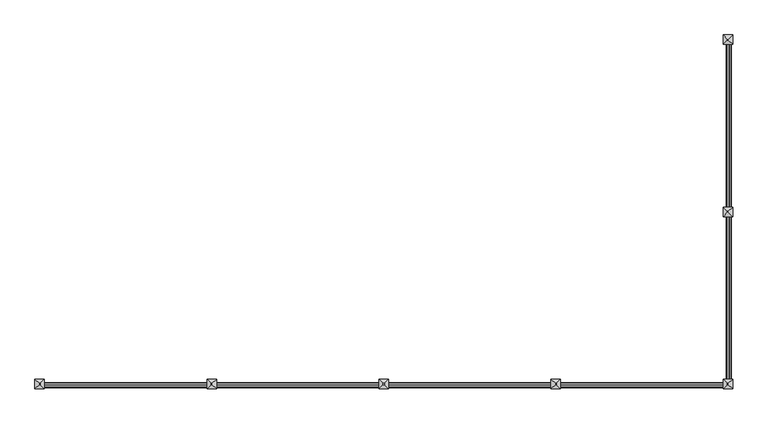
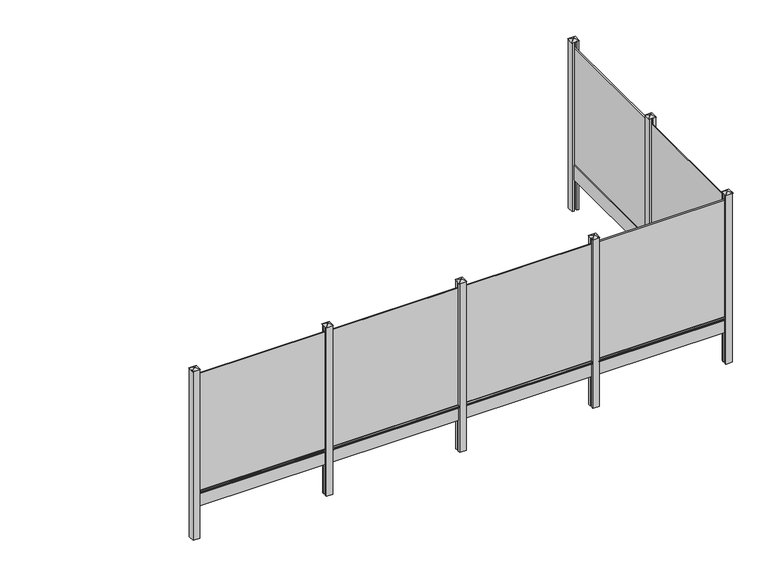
"""IFC4 building model written with IfcOpenShell, lengths in millimetres: railing geometry, Mehat - Railing - Plaque de Soubassement - Pour clôture bois - 200x25x3.5 cm."""

import ifcopenshell
import ifcopenshell.guid

model = None  # the IFC model being written
_history = None  # IfcOwnerHistory: only IFC2X3 demands one
_inside = {}  # id of a spatial element -> (the spatial element, [elements in it])
_under = {}  # id of a project, library or spatial element -> (it, [spatial elements below it])
_declared = {}  # id of a project -> (the project, [libraries it declares])
_typed = {}  # id of a type object -> (the type object, [elements of that type])
_made_of = {}  # id of a material, layer set ... -> (it, [elements and type objects made of it])


def new_model(schema):
    """Start an empty IFC model of exactly this schema.

    Asked for "IFC4X3", IfcOpenShell would pick the latest addendum, in which some entities
    have other attributes; the version numbers below select the first issue.
    IFC2X3 requires an IfcOwnerHistory on every rooted entity: one is made here for all.
    """
    global model, _history
    if schema == "IFC4X3":
        model = ifcopenshell.file(schema_version=(4, 3, 0, 0))
    else:
        model = ifcopenshell.file(schema=schema)
    _inside.clear()
    _under.clear()
    _declared.clear()
    _typed.clear()
    _made_of.clear()
    _history = None
    if model.schema == "IFC2X3":
        org = make("IfcOrganization", Name="unknown")
        user = make(
            "IfcPersonAndOrganization",
            ThePerson=make("IfcPerson", FamilyName="unknown"),
            TheOrganization=org,
        )
        app = make(
            "IfcApplication",
            ApplicationDeveloper=org,
            Version="unknown",
            ApplicationFullName="unknown",
            ApplicationIdentifier="unknown",
        )
        _history = make(
            "IfcOwnerHistory",
            OwningUser=user,
            OwningApplication=app,
            ChangeAction="ADDED",
            CreationDate=0,
        )
    return model


def make(cls, **values):
    """One entity of the class cls with the attributes given. An attribute that is None is left unset."""
    return model.create_entity(
        cls, **{name: value for name, value in values.items() if value is not None}
    )


def rooted(cls, **values):
    """An entity with a GlobalId (a new one), such as an element, a storey or a relation."""
    return make(cls, GlobalId=ifcopenshell.guid.new(), OwnerHistory=_history, **values)


def si_unit(unit_type, name, prefix=None):
    """IfcSIUnit, for example si_unit("LENGTHUNIT", "METRE", prefix="MILLI")."""
    return make("IfcSIUnit", UnitType=unit_type, Prefix=prefix, Name=name)


def assignment(units):
    """IfcUnitAssignment: the units of a project."""
    return None if units is None else make("IfcUnitAssignment", Units=units)


def point(xyz):
    """IfcCartesianPoint."""
    return None if xyz is None else make("IfcCartesianPoint", Coordinates=xyz)


def direction(xyz):
    """IfcDirection."""
    return None if xyz is None else make("IfcDirection", DirectionRatios=xyz)


def frame(location, z_axis=None, x_axis=None):
    """IfcAxis2Placement3D, a coordinate frame: its origin and axes. An axis left out is left unset."""
    return make(
        "IfcAxis2Placement3D",
        Location=point(location),
        Axis=direction(z_axis),
        RefDirection=direction(x_axis),
    )


def frame_2d(location, x_axis=None):
    """IfcAxis2Placement2D, a coordinate frame in the plane: its origin and x axis."""
    return make(
        "IfcAxis2Placement2D", Location=point(location), RefDirection=direction(x_axis)
    )


def origin():
    """The frame at (0, 0, 0) with its axes left unset."""
    return frame((0.0, 0.0, 0.0))


def origin_with_axes():
    """The frame at (0, 0, 0) with the z axis (0, 0, 1) and the x axis (1, 0, 0) written out."""
    return frame((0.0, 0.0, 0.0), z_axis=(0.0, 0.0, 1.0), x_axis=(1.0, 0.0, 0.0))


def place(relative_to, where):
    """IfcLocalPlacement: puts the frame where relative to a parent placement (None: the world)."""
    return make(
        "IfcLocalPlacement", PlacementRelTo=relative_to, RelativePlacement=where
    )


def context(
    kind, dimensions, precision=None, world=None, true_north=None, identifier=None
):
    """IfcGeometricRepresentationContext, for example the 3D "Model" context."""
    return make(
        "IfcGeometricRepresentationContext",
        ContextIdentifier=identifier,
        ContextType=kind,
        CoordinateSpaceDimension=dimensions,
        Precision=precision,
        WorldCoordinateSystem=world,
        TrueNorth=true_north,
    )


def project(units=None, contexts=None):
    """IfcProject with its units and contexts."""
    return rooted(
        "IfcProject",
        Name="project",
        RepresentationContexts=contexts,
        UnitsInContext=assignment(units),
    )


def spatial(cls, under=None, at=None, **own):
    """A site, building, storey or space (cls), placed at a placement, below another one or the project."""
    s = rooted(cls, ObjectPlacement=at, **own)
    if under is not None:
        _under.setdefault(under.id(), (under, []))[1].append(s)
    return s


def polyline(points):
    """IfcPolyline through the points."""
    return make("IfcPolyline", Points=[point(p) for p in points])


def circle_curve(where, radius):
    """IfcCircle in the frame where."""
    return make("IfcCircle", Position=where, Radius=radius)


def trimmed(basis, trim1, trim2, sense, master):
    """IfcTrimmedCurve: the piece of a basis curve between two trims."""
    return make(
        "IfcTrimmedCurve",
        BasisCurve=basis,
        Trim1=trim1,
        Trim2=trim2,
        SenseAgreement=sense,
        MasterRepresentation=master,
    )


def segment(curve, same_sense, transition):
    """IfcCompositeCurveSegment."""
    return make(
        "IfcCompositeCurveSegment",
        Transition=transition,
        SameSense=same_sense,
        ParentCurve=curve,
    )


def composite_curve(segments, self_intersect=None):
    """IfcCompositeCurve: segments joined end to end."""
    return make("IfcCompositeCurve", Segments=segments, SelfIntersect=self_intersect)


def outline(outer, holes=None, kind="AREA"):
    """IfcArbitraryClosedProfileDef: a profile drawn as a closed curve; with holes, ...WithVoids."""
    if holes is None:
        return make("IfcArbitraryClosedProfileDef", ProfileType=kind, OuterCurve=outer)
    return make(
        "IfcArbitraryProfileDefWithVoids",
        ProfileType=kind,
        OuterCurve=outer,
        InnerCurves=holes,
    )


def extrude(swept, where, along, depth):
    """IfcExtrudedAreaSolid: the profile swept, set in the frame where, extruded along a direction by depth."""
    return make(
        "IfcExtrudedAreaSolid",
        SweptArea=swept,
        Position=where,
        ExtrudedDirection=direction(along),
        Depth=depth,
    )


def faces_of(points, faces, orient=None, outer=None):
    """IfcFace entities. A face is a list of loops; a loop is a list of indices into points, from 0.

    orient and outer hold one flag for each loop. By default every Orientation is true, the
    first loop of a face is its IfcFaceOuterBound and the others are IfcFaceBound.
    """
    made = []
    for i, loops in enumerate(faces):
        bounds = []
        for j, loop in enumerate(loops):
            is_outer = j == 0 if outer is None else outer[i][j]
            bounds.append(
                make(
                    "IfcFaceOuterBound" if is_outer else "IfcFaceBound",
                    Bound=make("IfcPolyLoop", Polygon=[points[k] for k in loop]),
                    Orientation=True if orient is None else orient[i][j],
                )
            )
        made.append(make("IfcFace", Bounds=bounds))
    return made


def faceted_brep(points, faces, orient=None, outer=None, voids=None):
    """IfcFacetedBrep: a solid bounded by flat faces; with voids (closed shells), ...WithVoids."""
    shared = [point(p) for p in points]
    hull = make("IfcClosedShell", CfsFaces=faces_of(shared, faces, orient, outer))
    if voids is None:
        return make("IfcFacetedBrep", Outer=hull)
    return make(
        "IfcFacetedBrepWithVoids",
        Outer=hull,
        Voids=[
            make(cls, CfsFaces=faces_of(shared, fs, o, b)) for cls, fs, o, b in voids
        ],
    )


def shape(context_of_items, identifier, shape_type, items):
    """IfcShapeRepresentation: the items that make up one representation, for example the "Body"."""
    return make(
        "IfcShapeRepresentation",
        ContextOfItems=context_of_items,
        RepresentationIdentifier=identifier,
        RepresentationType=shape_type,
        Items=items,
    )


def source(mapping_origin, context_of_items, identifier, shape_type, items):
    """IfcRepresentationMap: a shape defined once, which mapped items show again and again."""
    return make(
        "IfcRepresentationMap",
        MappingOrigin=mapping_origin,
        MappedRepresentation=shape(context_of_items, identifier, shape_type, items),
    )


def transform(
    local_origin,
    x_axis=None,
    y_axis=None,
    z_axis=None,
    scale=None,
    scale2=None,
    scale3=None,
    uniform=True,
):
    """IfcCartesianTransformationOperator3D, or its non-uniform kind. x_axis, y_axis, z_axis: its Axis1, 2, 3."""
    if uniform:
        return make(
            "IfcCartesianTransformationOperator3D",
            Axis1=direction(x_axis),
            Axis2=direction(y_axis),
            LocalOrigin=point(local_origin),
            Scale=scale,
            Axis3=direction(z_axis),
        )
    return make(
        "IfcCartesianTransformationOperator3DnonUniform",
        Axis1=direction(x_axis),
        Axis2=direction(y_axis),
        LocalOrigin=point(local_origin),
        Scale=scale,
        Axis3=direction(z_axis),
        Scale2=scale2,
        Scale3=scale3,
    )


def mapped(mapping_source, mapping_target):
    """IfcMappedItem: shows the shape of a source again, moved by a transform."""
    return make(
        "IfcMappedItem", MappingSource=mapping_source, MappingTarget=mapping_target
    )


def made_of(thing, what):
    """Note that an element or type object is made of a material, layer set ...; save() writes the relation."""
    if what is not None:
        _made_of.setdefault(what.id(), (what, []))[1].append(thing)
    return thing


def element(
    cls,
    number,
    at=None,
    inside=None,
    cuts=None,
    type_object=None,
    material=None,
    context=None,
    identifier="Body",
    shape_type=None,
    held_by="IfcProductDefinitionShape",
    body=None,
    shapes=None,
    **own,
):
    """One element of the class cls, such as IfcWall. Its Tag is "e" and its number.

    at: its placement. inside: the storey or other place that contains it. cuts: it is an
    opening in that element (IfcRelVoidsElement). A single representation is given by context,
    identifier, shape_type and body (its items); several are given by shapes. held_by: the class
    of the entity that holds the representations. save() writes the other relations.
    """
    e = rooted(cls, Tag="e%d" % number, ObjectPlacement=at, **own)
    if body is not None:
        shapes = [shape(context, identifier, shape_type, body)]
    if shapes is not None:
        e.Representation = make(held_by, Representations=shapes)
    if inside is not None:
        _inside.setdefault(inside.id(), (inside, []))[1].append(e)
    if cuts is not None:
        rooted(
            "IfcRelVoidsElement", RelatingBuildingElement=cuts, RelatedOpeningElement=e
        )
    if type_object is not None:
        _typed.setdefault(type_object.id(), (type_object, []))[1].append(e)
    return made_of(e, material)


def aggregate(whole, parts):
    """IfcRelAggregates: a whole, such as a stair, and the parts it consists of."""
    return rooted("IfcRelAggregates", RelatingObject=whole, RelatedObjects=parts)


def save(model, path):
    """Write the relations noted so far, then the file.

    IfcRelAggregates (storeys below a building ...), IfcRelContainedInSpatialStructure (elements
    in a storey), IfcRelDefinesByType, IfcRelAssociatesMaterial and IfcRelDeclares: one each for
    every whole, place, type object, material and project.
    """
    for whole, parts in _under.values():
        aggregate(whole, parts)
    for where, things in _inside.values():
        rooted(
            "IfcRelContainedInSpatialStructure",
            RelatedElements=things,
            RelatingStructure=where,
        )
    for kind, things in _typed.values():
        rooted("IfcRelDefinesByType", RelatedObjects=things, RelatingType=kind)
    for what, things in _made_of.values():
        rooted("IfcRelAssociatesMaterial", RelatedObjects=things, RelatingMaterial=what)
    for by, libraries in _declared.values():
        rooted("IfcRelDeclares", RelatingContext=by, RelatedDefinitions=libraries)
    model.write(path)


def railing_6d3b28d1(model_context):
    return source(origin(), model_context, "Body", "SolidModel", [
        extrude(outline(polyline([(-1103.7483484, -1327.4943936), (-1120.7483484, -1327.4943936), (-1120.7483484, 672.5056064), (-1103.7483484, 672.5056064), (-1103.7483484, -1327.4943936)])), frame((0.0, 0.0, 200.0), z_axis=(0.0, 0.0, 1.0), x_axis=(1.0, 0.0, 0.0)), (0.0, 0.0, 1.0), 1950.0),
        extrude(outline(polyline([(-1094.7483484, -1327.4943936), (-1129.7483484, -1327.4943936), (-1129.7483484, 672.5056064), (-1094.7483484, 672.5056064), (-1094.7483484, -1327.4943936)])), origin_with_axes(), (0.0, 0.0, 1.0), 250.0),
        extrude(outline(composite_curve([segment(polyline([(210.0, -1094.7483484), (217.1937129, -1073.1672095)]), True, "CONTINUOUS"), segment(trimmed(circle_curve(frame_2d((221.9371294, -1074.7483484)), 5.0), [point((217.1937129, -1073.1672095))], [point((221.9371294, -1069.7483484))], False, "CARTESIAN"), True, "CONTINUOUS"), segment(polyline([(221.9371294, -1069.7483484), (238.0628706, -1069.7483484)]), True, "CONTINUOUS"), segment(trimmed(circle_curve(frame_2d((238.0628706, -1074.7483484)), 5.0), [point((238.0628706, -1069.7483484))], [point((242.8062871, -1073.1672095))], False, "CARTESIAN"), True, "CONTINUOUS"), segment(polyline([(242.8062871, -1073.1672095), (250.0, -1094.7483484), (210.0, -1094.7483484)]), True, "CONTINUOUS")], self_intersect=False)), frame((0.0, -1302.4943936, 0.0), z_axis=(0.0, 1.0, 0.0), x_axis=(0.0, 0.0, 1.0)), (0.0, 0.0, 1.0), 1950.0),
        extrude(outline(polyline([(-1062.2483484, -1402.4943936), (-1094.7483484, -1402.4943936), (-1094.7483484, -1377.4943936), (-1129.7483484, -1377.4943936), (-1129.7483484, -1402.4943936), (-1162.2483484, -1402.4943936), (-1162.2483484, -1302.4943936), (-1129.7483484, -1302.4943936), (-1129.7483484, -1327.4943936), (-1094.7483484, -1327.4943936), (-1094.7483484, -1302.4943936), (-1062.2483484, -1302.4943936), (-1062.2483484, -1402.4943936)])), frame((0.0, 0.0, -500.0), z_axis=(0.0, 0.0, 1.0), x_axis=(1.0, 0.0, 0.0)), (0.0, 0.0, 1.0), 2750.0),
        faceted_brep([(-1118.6528945, -1346.1443936, 2275.4), (-1118.6528945, -1358.8443936, 2275.4), (-1105.9528945, -1358.8443936, 2275.4), (-1105.9528945, -1346.1443936, 2275.4), (-1168.5983484, -1296.1443936, 2250.0), (-1055.8983484, -1296.1443936, 2250.0), (-1055.8983484, -1408.8443936, 2250.0), (-1168.5983484, -1408.8443936, 2250.0)], [[[0, 1, 2, 3]], [[4, 5, 6, 7]], [[4, 0, 3, 5]], [[5, 3, 2, 6]], [[6, 2, 1, 7]], [[7, 1, 0, 4]]]),
        extrude(outline(polyline([(-1103.7483484, -3377.4943936), (-1120.7483484, -3377.4943936), (-1120.7483484, -1377.4943936), (-1103.7483484, -1377.4943936), (-1103.7483484, -3377.4943936)])), frame((0.0, 0.0, 200.0), z_axis=(0.0, 0.0, 1.0), x_axis=(1.0, 0.0, 0.0)), (0.0, 0.0, 1.0), 1950.0),
        extrude(outline(polyline([(-1094.7483484, -3377.4943936), (-1129.7483484, -3377.4943936), (-1129.7483484, -1377.4943936), (-1094.7483484, -1377.4943936), (-1094.7483484, -3377.4943936)])), origin_with_axes(), (0.0, 0.0, 1.0), 250.0),
        extrude(outline(composite_curve([segment(polyline([(210.0, -1094.7483484), (217.1937129, -1073.1672095)]), True, "CONTINUOUS"), segment(trimmed(circle_curve(frame_2d((221.9371294, -1074.7483484)), 5.0), [point((217.1937129, -1073.1672095))], [point((221.9371294, -1069.7483484))], False, "CARTESIAN"), True, "CONTINUOUS"), segment(polyline([(221.9371294, -1069.7483484), (238.0628706, -1069.7483484)]), True, "CONTINUOUS"), segment(trimmed(circle_curve(frame_2d((238.0628706, -1074.7483484)), 5.0), [point((238.0628706, -1069.7483484))], [point((242.8062871, -1073.1672095))], False, "CARTESIAN"), True, "CONTINUOUS"), segment(polyline([(242.8062871, -1073.1672095), (250.0, -1094.7483484), (210.0, -1094.7483484)]), True, "CONTINUOUS")], self_intersect=False)), frame((0.0, -3352.4943936, 0.0), z_axis=(0.0, 1.0, 0.0), x_axis=(0.0, 0.0, 1.0)), (0.0, 0.0, 1.0), 1950.0),
        extrude(outline(polyline([(-3137.2483484, -3410.9943936), (-3137.2483484, -3393.9943936), (-1137.2483484, -3393.9943936), (-1137.2483484, -3410.9943936), (-3137.2483484, -3410.9943936)])), frame((0.0, 0.0, 200.0), z_axis=(0.0, 0.0, 1.0), x_axis=(1.0, 0.0, 0.0)), (0.0, 0.0, 1.0), 1950.0),
        extrude(outline(polyline([(-3137.2483484, -3419.9943936), (-3137.2483484, -3384.9943936), (-1137.2483484, -3384.9943936), (-1137.2483484, -3419.9943936), (-3137.2483484, -3419.9943936)])), origin_with_axes(), (0.0, 0.0, 1.0), 250.0),
        extrude(outline(composite_curve([segment(polyline([(-3419.9943936, 210.0), (-3441.5755325, 217.1937129)]), True, "CONTINUOUS"), segment(trimmed(circle_curve(frame_2d((-3439.9943936, 221.9371294)), 5.0), [point((-3441.5755325, 217.1937129))], [point((-3444.9943936, 221.9371294))], False, "CARTESIAN"), True, "CONTINUOUS"), segment(polyline([(-3444.9943936, 221.9371294), (-3444.9943936, 238.0628706)]), True, "CONTINUOUS"), segment(trimmed(circle_curve(frame_2d((-3439.9943936, 238.0628706)), 5.0), [point((-3444.9943936, 238.0628706))], [point((-3441.5755325, 242.8062871))], False, "CARTESIAN"), True, "CONTINUOUS"), segment(polyline([(-3441.5755325, 242.8062871), (-3419.9943936, 250.0), (-3419.9943936, 210.0)]), True, "CONTINUOUS")], self_intersect=False)), frame((-3112.2483484, 0.0, 0.0), z_axis=(1.0, 0.0, 0.0), x_axis=(0.0, 1.0, 0.0)), (0.0, 0.0, 1.0), 1950.0),
        extrude(outline(polyline([(-3212.2483484, -3452.4943936), (-3212.2483484, -3419.9943936), (-3187.2483484, -3419.9943936), (-3187.2483484, -3384.9943936), (-3212.2483484, -3384.9943936), (-3212.2483484, -3352.4943936), (-3112.2483484, -3352.4943936), (-3112.2483484, -3384.9943936), (-3137.2483484, -3384.9943936), (-3137.2483484, -3419.9943936), (-3112.2483484, -3419.9943936), (-3112.2483484, -3452.4943936), (-3212.2483484, -3452.4943936)])), frame((0.0, 0.0, -500.0), z_axis=(0.0, 0.0, 1.0), x_axis=(1.0, 0.0, 0.0)), (0.0, 0.0, 1.0), 2750.0),
        faceted_brep([(-3155.8983484, -3396.0898475, 2275.4), (-3168.5983484, -3396.0898475, 2275.4), (-3168.5983484, -3408.7898475, 2275.4), (-3155.8983484, -3408.7898475, 2275.4), (-3105.8983484, -3346.1443936, 2250.0), (-3105.8983484, -3458.8443936, 2250.0), (-3218.5983484, -3458.8443936, 2250.0), (-3218.5983484, -3346.1443936, 2250.0)], [[[0, 1, 2, 3]], [[4, 5, 6, 7]], [[4, 0, 3, 5]], [[5, 3, 2, 6]], [[6, 2, 1, 7]], [[7, 1, 0, 4]]]),
        extrude(outline(polyline([(-5187.2483484, -3410.9943936), (-5187.2483484, -3393.9943936), (-3187.2483484, -3393.9943936), (-3187.2483484, -3410.9943936), (-5187.2483484, -3410.9943936)])), frame((0.0, 0.0, 200.0), z_axis=(0.0, 0.0, 1.0), x_axis=(1.0, 0.0, 0.0)), (0.0, 0.0, 1.0), 1950.0),
        extrude(outline(polyline([(-5187.2483484, -3419.9943936), (-5187.2483484, -3384.9943936), (-3187.2483484, -3384.9943936), (-3187.2483484, -3419.9943936), (-5187.2483484, -3419.9943936)])), origin_with_axes(), (0.0, 0.0, 1.0), 250.0),
        extrude(outline(composite_curve([segment(polyline([(-3419.9943936, 210.0), (-3441.5755325, 217.1937129)]), True, "CONTINUOUS"), segment(trimmed(circle_curve(frame_2d((-3439.9943936, 221.9371294)), 5.0), [point((-3441.5755325, 217.1937129))], [point((-3444.9943936, 221.9371294))], False, "CARTESIAN"), True, "CONTINUOUS"), segment(polyline([(-3444.9943936, 221.9371294), (-3444.9943936, 238.0628706)]), True, "CONTINUOUS"), segment(trimmed(circle_curve(frame_2d((-3439.9943936, 238.0628706)), 5.0), [point((-3444.9943936, 238.0628706))], [point((-3441.5755325, 242.8062871))], False, "CARTESIAN"), True, "CONTINUOUS"), segment(polyline([(-3441.5755325, 242.8062871), (-3419.9943936, 250.0), (-3419.9943936, 210.0)]), True, "CONTINUOUS")], self_intersect=False)), frame((-5162.2483484, 0.0, 0.0), z_axis=(1.0, 0.0, 0.0), x_axis=(0.0, 1.0, 0.0)), (0.0, 0.0, 1.0), 1950.0),
        extrude(outline(polyline([(-5262.2483484, -3452.4943936), (-5262.2483484, -3419.9943936), (-5237.2483484, -3419.9943936), (-5237.2483484, -3384.9943936), (-5262.2483484, -3384.9943936), (-5262.2483484, -3352.4943936), (-5162.2483484, -3352.4943936), (-5162.2483484, -3384.9943936), (-5187.2483484, -3384.9943936), (-5187.2483484, -3419.9943936), (-5162.2483484, -3419.9943936), (-5162.2483484, -3452.4943936), (-5262.2483484, -3452.4943936)])), frame((0.0, 0.0, -500.0), z_axis=(0.0, 0.0, 1.0), x_axis=(1.0, 0.0, 0.0)), (0.0, 0.0, 1.0), 2750.0),
        faceted_brep([(-5205.8983484, -3396.0898475, 2275.4), (-5218.5983484, -3396.0898475, 2275.4), (-5218.5983484, -3408.7898475, 2275.4), (-5205.8983484, -3408.7898475, 2275.4), (-5155.8983484, -3346.1443936, 2250.0), (-5155.8983484, -3458.8443936, 2250.0), (-5268.5983484, -3458.8443936, 2250.0), (-5268.5983484, -3346.1443936, 2250.0)], [[[0, 1, 2, 3]], [[4, 5, 6, 7]], [[4, 0, 3, 5]], [[5, 3, 2, 6]], [[6, 2, 1, 7]], [[7, 1, 0, 4]]]),
        extrude(outline(polyline([(-7237.2483484, -3410.9943936), (-7237.2483484, -3393.9943936), (-5237.2483484, -3393.9943936), (-5237.2483484, -3410.9943936), (-7237.2483484, -3410.9943936)])), frame((0.0, 0.0, 200.0), z_axis=(0.0, 0.0, 1.0), x_axis=(1.0, 0.0, 0.0)), (0.0, 0.0, 1.0), 1950.0),
        extrude(outline(polyline([(-7237.2483484, -3419.9943936), (-7237.2483484, -3384.9943936), (-5237.2483484, -3384.9943936), (-5237.2483484, -3419.9943936), (-7237.2483484, -3419.9943936)])), origin_with_axes(), (0.0, 0.0, 1.0), 250.0),
        extrude(outline(composite_curve([segment(polyline([(-3419.9943936, 210.0), (-3441.5755325, 217.1937129)]), True, "CONTINUOUS"), segment(trimmed(circle_curve(frame_2d((-3439.9943936, 221.9371294)), 5.0), [point((-3441.5755325, 217.1937129))], [point((-3444.9943936, 221.9371294))], False, "CARTESIAN"), True, "CONTINUOUS"), segment(polyline([(-3444.9943936, 221.9371294), (-3444.9943936, 238.0628706)]), True, "CONTINUOUS"), segment(trimmed(circle_curve(frame_2d((-3439.9943936, 238.0628706)), 5.0), [point((-3444.9943936, 238.0628706))], [point((-3441.5755325, 242.8062871))], False, "CARTESIAN"), True, "CONTINUOUS"), segment(polyline([(-3441.5755325, 242.8062871), (-3419.9943936, 250.0), (-3419.9943936, 210.0)]), True, "CONTINUOUS")], self_intersect=False)), frame((-7212.2483484, 0.0, 0.0), z_axis=(1.0, 0.0, 0.0), x_axis=(0.0, 1.0, 0.0)), (0.0, 0.0, 1.0), 1950.0),
        extrude(outline(polyline([(-7312.2483484, -3452.4943936), (-7312.2483484, -3419.9943936), (-7287.2483484, -3419.9943936), (-7287.2483484, -3384.9943936), (-7312.2483484, -3384.9943936), (-7312.2483484, -3352.4943936), (-7212.2483484, -3352.4943936), (-7212.2483484, -3384.9943936), (-7237.2483484, -3384.9943936), (-7237.2483484, -3419.9943936), (-7212.2483484, -3419.9943936), (-7212.2483484, -3452.4943936), (-7312.2483484, -3452.4943936)])), frame((0.0, 0.0, -500.0), z_axis=(0.0, 0.0, 1.0), x_axis=(1.0, 0.0, 0.0)), (0.0, 0.0, 1.0), 2750.0),
        faceted_brep([(-7255.8983484, -3396.0898475, 2275.4), (-7268.5983484, -3396.0898475, 2275.4), (-7268.5983484, -3408.7898475, 2275.4), (-7255.8983484, -3408.7898475, 2275.4), (-7205.8983484, -3346.1443936, 2250.0), (-7205.8983484, -3458.8443936, 2250.0), (-7318.5983484, -3458.8443936, 2250.0), (-7318.5983484, -3346.1443936, 2250.0)], [[[0, 1, 2, 3]], [[4, 5, 6, 7]], [[4, 0, 3, 5]], [[5, 3, 2, 6]], [[6, 2, 1, 7]], [[7, 1, 0, 4]]]),
        extrude(outline(polyline([(-9287.2483484, -3410.9943936), (-9287.2483484, -3393.9943936), (-7287.2483484, -3393.9943936), (-7287.2483484, -3410.9943936), (-9287.2483484, -3410.9943936)])), frame((0.0, 0.0, 200.0), z_axis=(0.0, 0.0, 1.0), x_axis=(1.0, 0.0, 0.0)), (0.0, 0.0, 1.0), 1950.0),
        extrude(outline(polyline([(-9287.2483484, -3419.9943936), (-9287.2483484, -3384.9943936), (-7287.2483484, -3384.9943936), (-7287.2483484, -3419.9943936), (-9287.2483484, -3419.9943936)])), origin_with_axes(), (0.0, 0.0, 1.0), 250.0),
        extrude(outline(composite_curve([segment(polyline([(-3419.9943936, 210.0), (-3441.5755325, 217.1937129)]), True, "CONTINUOUS"), segment(trimmed(circle_curve(frame_2d((-3439.9943936, 221.9371294)), 5.0), [point((-3441.5755325, 217.1937129))], [point((-3444.9943936, 221.9371294))], False, "CARTESIAN"), True, "CONTINUOUS"), segment(polyline([(-3444.9943936, 221.9371294), (-3444.9943936, 238.0628706)]), True, "CONTINUOUS"), segment(trimmed(circle_curve(frame_2d((-3439.9943936, 238.0628706)), 5.0), [point((-3444.9943936, 238.0628706))], [point((-3441.5755325, 242.8062871))], False, "CARTESIAN"), True, "CONTINUOUS"), segment(polyline([(-3441.5755325, 242.8062871), (-3419.9943936, 250.0), (-3419.9943936, 210.0)]), True, "CONTINUOUS")], self_intersect=False)), frame((-9262.2483484, 0.0, 0.0), z_axis=(1.0, 0.0, 0.0), x_axis=(0.0, 1.0, 0.0)), (0.0, 0.0, 1.0), 1950.0),
        extrude(outline(polyline([(-1162.2483484, -3452.4943936), (-1162.2483484, -3419.9943936), (-1137.2483484, -3419.9943936), (-1137.2483484, -3384.9943936), (-1162.2483484, -3384.9943936), (-1162.2483484, -3352.4943936), (-1129.7483484, -3352.4943936), (-1129.7483484, -3377.4943936), (-1094.7483484, -3377.4943936), (-1094.7483484, -3352.4943936), (-1062.2483484, -3352.4943936), (-1062.2483484, -3452.4943936), (-1162.2483484, -3452.4943936)])), frame((0.0, 0.0, -500.0), z_axis=(0.0, 0.0, 1.0), x_axis=(1.0, 0.0, 0.0)), (0.0, 0.0, 1.0), 2750.0),
        faceted_brep([(-1105.8983484, -3396.0898475, 2275.4), (-1118.5983484, -3396.0898475, 2275.4), (-1118.5983484, -3408.7898475, 2275.4), (-1105.8983484, -3408.7898475, 2275.4), (-1055.8983484, -3346.1443936, 2250.0), (-1055.8983484, -3458.8443936, 2250.0), (-1168.5983484, -3458.8443936, 2250.0), (-1168.5983484, -3346.1443936, 2250.0)], [[[0, 1, 2, 3]], [[4, 5, 6, 7]], [[4, 0, 3, 5]], [[5, 3, 2, 6]], [[6, 2, 1, 7]], [[7, 1, 0, 4]]]),
        extrude(outline(polyline([(-1062.2483484, 647.5056064), (-1094.7483484, 647.5056064), (-1094.7483484, 672.5056064), (-1129.7483484, 672.5056064), (-1129.7483484, 647.5056064), (-1162.2483484, 647.5056064), (-1162.2483484, 747.5056064), (-1062.2483484, 747.5056064), (-1062.2483484, 647.5056064)])), frame((0.0, 0.0, -500.0), z_axis=(0.0, 0.0, 1.0), x_axis=(1.0, 0.0, 0.0)), (0.0, 0.0, 1.0), 2750.0),
        faceted_brep([(-1118.6528945, 703.8556064, 2275.4), (-1118.6528945, 691.1556064, 2275.4), (-1105.9528945, 691.1556064, 2275.4), (-1105.9528945, 703.8556064, 2275.4), (-1168.5983484, 753.8556064, 2250.0), (-1055.8983484, 753.8556064, 2250.0), (-1055.8983484, 641.1556064, 2250.0), (-1168.5983484, 641.1556064, 2250.0)], [[[0, 1, 2, 3]], [[4, 5, 6, 7]], [[4, 0, 3, 5]], [[5, 3, 2, 6]], [[6, 2, 1, 7]], [[7, 1, 0, 4]]]),
        extrude(outline(polyline([(-9362.2483484, -3452.4943936), (-9362.2483484, -3352.4943936), (-9262.2483484, -3352.4943936), (-9262.2483484, -3384.9943936), (-9287.2483484, -3384.9943936), (-9287.2483484, -3419.9943936), (-9262.2483484, -3419.9943936), (-9262.2483484, -3452.4943936), (-9362.2483484, -3452.4943936)])), frame((0.0, 0.0, -500.0), z_axis=(0.0, 0.0, 1.0), x_axis=(1.0, 0.0, 0.0)), (0.0, 0.0, 1.0), 2750.0),
        faceted_brep([(-9305.8983484, -3396.0898475, 2275.4), (-9318.5983484, -3396.0898475, 2275.4), (-9318.5983484, -3408.7898475, 2275.4), (-9305.8983484, -3408.7898475, 2275.4), (-9255.8983484, -3346.1443936, 2250.0), (-9255.8983484, -3458.8443936, 2250.0), (-9368.5983484, -3458.8443936, 2250.0), (-9368.5983484, -3346.1443936, 2250.0)], [[[0, 1, 2, 3]], [[4, 5, 6, 7]], [[4, 0, 3, 5]], [[5, 3, 2, 6]], [[6, 2, 1, 7]], [[7, 1, 0, 4]]]),
    ])


if __name__ == "__main__":
    model = new_model("IFC4")
    model_context = context("Model", 3, world=origin())
    ifc_project = project(units=[si_unit("LENGTHUNIT", "METRE", prefix="MILLI")], contexts=[model_context])
    site = spatial("IfcSite", under=ifc_project)
    building = spatial("IfcBuilding", under=site)
    placement = place(None, origin())
    railing_shape = railing_6d3b28d1(model_context)
    element("IfcRailing", 1, ObjectType="Mehat - Railing - Plaque de Soubassement - Pour clôture bois - 200x25x3.5 cm", at=placement, inside=building, context=model_context, shape_type="MappedRepresentation", body=[
        mapped(railing_shape, transform((0.0, 0.0, 0.0), x_axis=(1.0, 0.0, 0.0), y_axis=(0.0, 1.0, 0.0), z_axis=(0.0, 0.0, 1.0))),
    ])
    save(model, "model.ifc")
